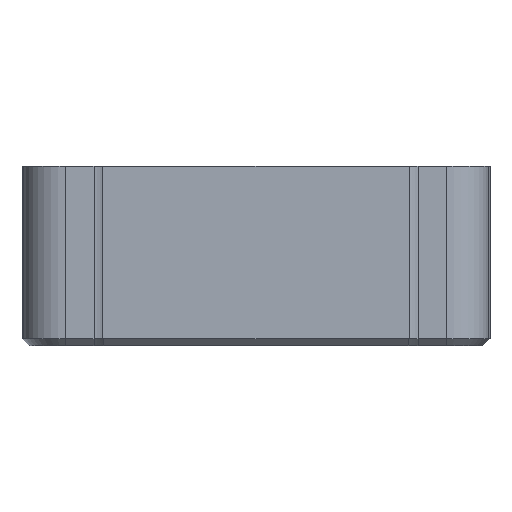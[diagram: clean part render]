
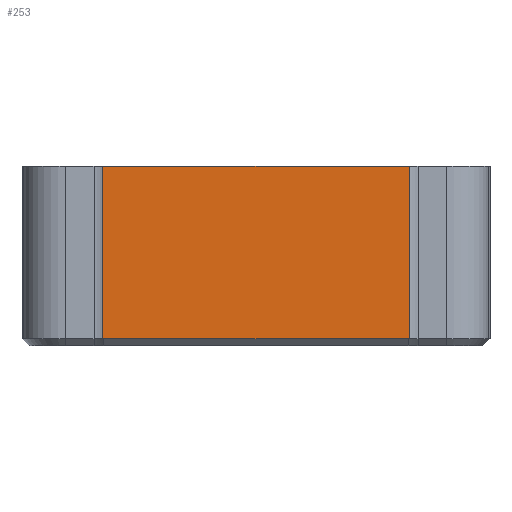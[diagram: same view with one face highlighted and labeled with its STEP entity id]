
A CAD part, front view. The second image highlights one B-rep face of the part: STEP entity #253.
In plain terms, the highlighted planar face has unit normal (0, -1, 0).
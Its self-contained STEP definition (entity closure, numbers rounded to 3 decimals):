
#27 = VERTEX_POINT ( 'NONE', #1344 ) ;
#66 = VECTOR ( 'NONE', #888, 1000. ) ;
#165 = CARTESIAN_POINT ( 'NONE',  ( -42.502, -65., 50. ) ) ;
#226 = EDGE_CURVE ( 'NONE', #991, #1654, #350, .T. ) ;
#233 = CARTESIAN_POINT ( 'NONE',  ( -53., -65., 50. ) ) ;
#238 = EDGE_CURVE ( 'NONE', #991, #1468, #1419, .T. ) ;
#243 = DIRECTION ( 'NONE',  ( 0., 0., -1. ) ) ;
#253 = ADVANCED_FACE ( 'NONE', ( #765 ), #1302, .F. ) ;
#350 = LINE ( 'NONE', #1562, #671 ) ;
#387 = CARTESIAN_POINT ( 'NONE',  ( 42.502, -65., 32. ) ) ;
#431 = LINE ( 'NONE', #1068, #1596 ) ;
#441 = ORIENTED_EDGE ( 'NONE', *, *, #1083, .F. ) ;
#671 = VECTOR ( 'NONE', #243, 1000. ) ;
#700 = ORIENTED_EDGE ( 'NONE', *, *, #238, .F. ) ;
#765 = FACE_OUTER_BOUND ( 'NONE', #1348, .T. ) ;
#780 = EDGE_CURVE ( 'NONE', #1654, #27, #431, .T. ) ;
#817 = CARTESIAN_POINT ( 'NONE',  ( -42.502, -65., 2. ) ) ;
#888 = DIRECTION ( 'NONE',  ( 1., 0., 0. ) ) ;
#917 = DIRECTION ( 'NONE',  ( 0., 0., -1. ) ) ;
#950 = ORIENTED_EDGE ( 'NONE', *, *, #226, .T. ) ;
#991 = VERTEX_POINT ( 'NONE', #165 ) ;
#1039 = AXIS2_PLACEMENT_3D ( 'NONE', #1156, #1148, #1690 ) ;
#1068 = CARTESIAN_POINT ( 'NONE',  ( 42.502, -65., 2. ) ) ;
#1079 = CARTESIAN_POINT ( 'NONE',  ( 42.502, -65., 50. ) ) ;
#1083 = EDGE_CURVE ( 'NONE', #1468, #27, #1579, .T. ) ;
#1148 = DIRECTION ( 'NONE',  ( 0., 1., 0. ) ) ;
#1156 = CARTESIAN_POINT ( 'NONE',  ( -42.502, -65., 32. ) ) ;
#1159 = ORIENTED_EDGE ( 'NONE', *, *, #780, .T. ) ;
#1175 = VECTOR ( 'NONE', #917, 1000. ) ;
#1302 = PLANE ( 'NONE',  #1039 ) ;
#1330 = DIRECTION ( 'NONE',  ( 1., 0., 0. ) ) ;
#1344 = CARTESIAN_POINT ( 'NONE',  ( 42.502, -65., 2. ) ) ;
#1348 = EDGE_LOOP ( 'NONE', ( #950, #1159, #441, #700 ) ) ;
#1419 = LINE ( 'NONE', #233, #66 ) ;
#1468 = VERTEX_POINT ( 'NONE', #1079 ) ;
#1562 = CARTESIAN_POINT ( 'NONE',  ( -42.502, -65., 32. ) ) ;
#1579 = LINE ( 'NONE', #387, #1175 ) ;
#1596 = VECTOR ( 'NONE', #1330, 1000. ) ;
#1654 = VERTEX_POINT ( 'NONE', #817 ) ;
#1690 = DIRECTION ( 'NONE',  ( 1., 0., 0. ) ) ;
